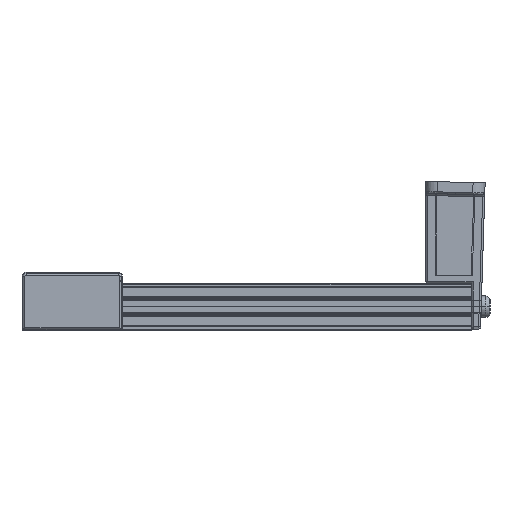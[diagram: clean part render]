
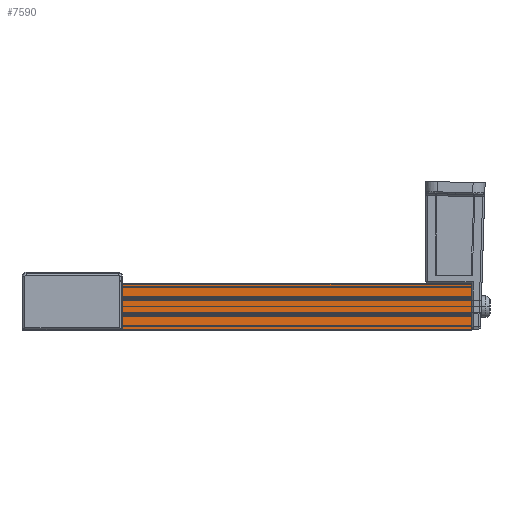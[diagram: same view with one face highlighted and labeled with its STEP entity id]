
A CAD part, left-side view. The second image highlights one B-rep face of the part: STEP entity #7590.
In plain terms, the highlighted planar face has unit normal (-1, 0, 0).
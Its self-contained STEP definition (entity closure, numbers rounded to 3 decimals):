
#88 = VECTOR ( 'NONE', #10011, 1000. ) ;
#1144 = ORIENTED_EDGE ( 'NONE', *, *, #7655, .T. ) ;
#1230 = CARTESIAN_POINT ( 'NONE',  ( -271., -86.867, -3. ) ) ;
#1523 = LINE ( 'NONE', #9109, #17234 ) ;
#3069 = CARTESIAN_POINT ( 'NONE',  ( -271., -87., -3.15 ) ) ;
#3171 = CARTESIAN_POINT ( 'NONE',  ( -271., -87., -14.2 ) ) ;
#3521 = EDGE_CURVE ( 'NONE', #8809, #20271, #4983, .T. ) ;
#3586 = VECTOR ( 'NONE', #17201, 1000. ) ;
#3792 = CARTESIAN_POINT ( 'NONE',  ( -271., 0., -3. ) ) ;
#4586 = CARTESIAN_POINT ( 'NONE',  ( -271., -86.867, -3. ) ) ;
#4983 = LINE ( 'NONE', #3069, #15886 ) ;
#5265 = AXIS2_PLACEMENT_3D ( 'NONE', #21015, #11371, #13007 ) ;
#5927 = FACE_OUTER_BOUND ( 'NONE', #17006, .T. ) ;
#6173 = VERTEX_POINT ( 'NONE', #1230 ) ;
#6544 = CARTESIAN_POINT ( 'NONE',  ( -271., -87., -3.15 ) ) ;
#6548 = CARTESIAN_POINT ( 'NONE',  ( -271., -87., -14.2 ) ) ;
#6684 = CARTESIAN_POINT ( 'NONE',  ( -271., 0., -3. ) ) ;
#7169 = VERTEX_POINT ( 'NONE', #11388 ) ;
#7590 = ADVANCED_FACE ( 'NONE', ( #5927 ), #16173, .T. ) ;
#7619 = EDGE_CURVE ( 'NONE', #20271, #7169, #14518, .T. ) ;
#7655 = EDGE_CURVE ( 'NONE', #16804, #7169, #14028, .T. ) ;
#8096 = DIRECTION ( 'NONE',  ( 0., 0., -1. ) ) ;
#8610 = ORIENTED_EDGE ( 'NONE', *, *, #3521, .F. ) ;
#8809 = VERTEX_POINT ( 'NONE', #6544 ) ;
#9109 = CARTESIAN_POINT ( 'NONE',  ( -271., -86.867, -3. ) ) ;
#9983 = EDGE_CURVE ( 'NONE', #6173, #8809, #11411, .T. ) ;
#10011 = DIRECTION ( 'NONE',  ( 0., 0., -1. ) ) ;
#10384 = EDGE_CURVE ( 'NONE', #6173, #16804, #1523, .T. ) ;
#11371 = DIRECTION ( 'NONE',  ( -1., 0., 0. ) ) ;
#11388 = CARTESIAN_POINT ( 'NONE',  ( -271., 0., -14.2 ) ) ;
#11411 = LINE ( 'NONE', #4586, #3586 ) ;
#12488 = ORIENTED_EDGE ( 'NONE', *, *, #10384, .T. ) ;
#12858 = DIRECTION ( 'NONE',  ( 0., 1., 0. ) ) ;
#13007 = DIRECTION ( 'NONE',  ( 0., 0., -1. ) ) ;
#14028 = LINE ( 'NONE', #6684, #88 ) ;
#14518 = LINE ( 'NONE', #3171, #18331 ) ;
#15608 = DIRECTION ( 'NONE',  ( 0., 1., 0. ) ) ;
#15886 = VECTOR ( 'NONE', #8096, 1000. ) ;
#16173 = PLANE ( 'NONE',  #5265 ) ;
#16804 = VERTEX_POINT ( 'NONE', #3792 ) ;
#17006 = EDGE_LOOP ( 'NONE', ( #12488, #1144, #19494, #8610, #19483 ) ) ;
#17201 = DIRECTION ( 'NONE',  ( 0., -0.664, -0.747 ) ) ;
#17234 = VECTOR ( 'NONE', #15608, 1000. ) ;
#18331 = VECTOR ( 'NONE', #12858, 1000. ) ;
#19483 = ORIENTED_EDGE ( 'NONE', *, *, #9983, .F. ) ;
#19494 = ORIENTED_EDGE ( 'NONE', *, *, #7619, .F. ) ;
#20271 = VERTEX_POINT ( 'NONE', #6548 ) ;
#21015 = CARTESIAN_POINT ( 'NONE',  ( -271., 0., -2.7 ) ) ;
